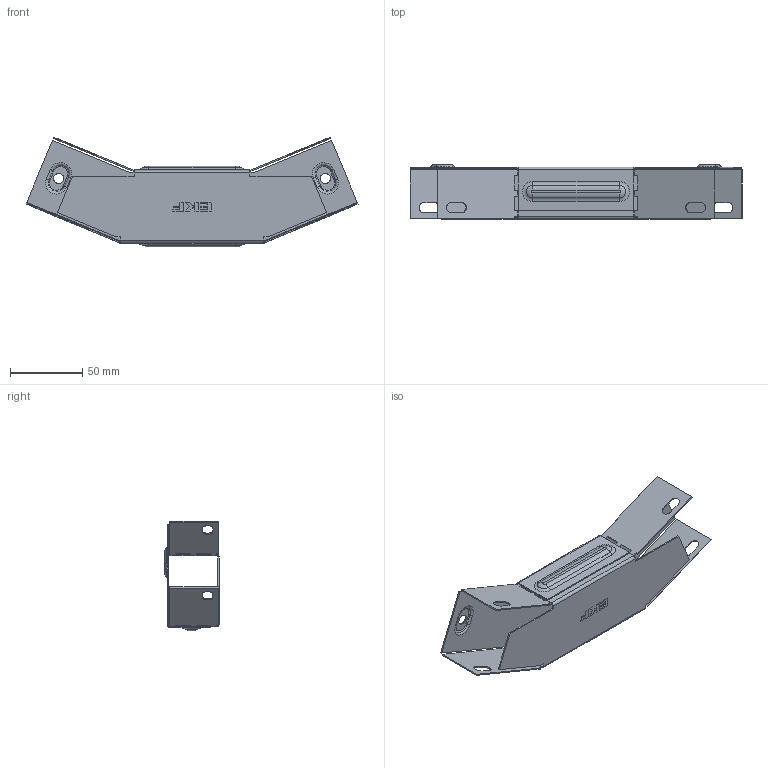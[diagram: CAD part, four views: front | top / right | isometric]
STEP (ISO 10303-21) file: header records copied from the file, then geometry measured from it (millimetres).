
FILE_DESCRIPTION (( 'STEP AP214' ), '1' );
FILE_NAME ('g453550_捘.STEP', '2019-06-10T08:37:16', ( '砐錪賧瘔蠈錪 Windows' ), ( '' ), 'SwSTEP 2.0', 'SolidWorks 2018', '' );
FILE_SCHEMA (( 'AUTOMOTIVE_DESIGN' ));
Length unit declared in the file: millimetre
Products named in the file (1): g453550_捘
Bounding box: 229.22 x 37.3 x 75.7 mm (x, y, z)
Volume: 30089.5 mm3; surface area: 76939.8 mm2
Topology: 2 solids, 2 shells, 428 faces, 1156 edges, 740 vertices
Faces by surface type: plane 254, cylinder 108, torus 48, bspline 18
Entity records: 14304 total; most frequent: CARTESIAN_POINT 3344, ORIENTED_EDGE 2312, DIRECTION 2230, EDGE_CURVE 1156, VECTOR 832, LINE 832, VERTEX_POINT 740, AXIS2_PLACEMENT_3D 699
